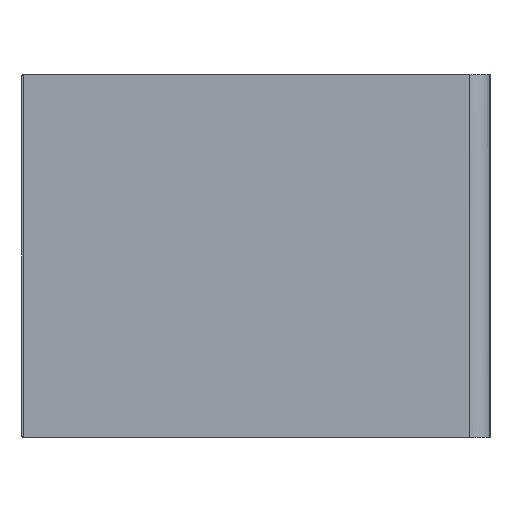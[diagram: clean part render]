
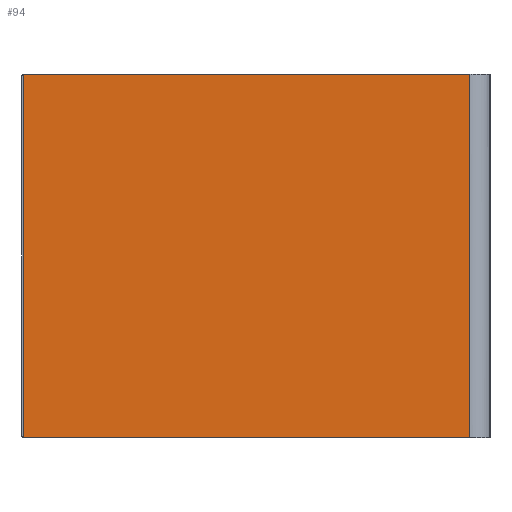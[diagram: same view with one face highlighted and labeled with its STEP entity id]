
A CAD part, left-side view. The second image highlights one B-rep face of the part: STEP entity #94.
In plain terms, the highlighted planar face has unit normal (-1, 0, 0).
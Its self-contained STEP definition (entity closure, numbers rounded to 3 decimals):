
#94=ADVANCED_FACE('',(#162),#1014,.T.);
#162=FACE_OUTER_BOUND('',#232,.T.);
#232=EDGE_LOOP('',(#542,#543,#544,#545));
#542=ORIENTED_EDGE('',*,*,#710,.F.);
#543=ORIENTED_EDGE('',*,*,#702,.F.);
#544=ORIENTED_EDGE('',*,*,#711,.T.);
#545=ORIENTED_EDGE('',*,*,#706,.F.);
#702=EDGE_CURVE('',#966,#968,#865,.T.);
#706=EDGE_CURVE('',#972,#973,#868,.T.);
#710=EDGE_CURVE('',#968,#972,#872,.T.);
#711=EDGE_CURVE('',#966,#973,#873,.T.);
#865=B_SPLINE_CURVE_WITH_KNOTS('',1,(#2454,#2455),.UNSPECIFIED.,.F.,.F.,
(2,2),(0.,70.),.UNSPECIFIED.);
#868=B_SPLINE_CURVE_WITH_KNOTS('',1,(#2463,#2464),.UNSPECIFIED.,.F.,.F.,
(2,2),(0.,70.),.UNSPECIFIED.);
#872=B_SPLINE_CURVE_WITH_KNOTS('',1,(#2471,#2472),.UNSPECIFIED.,.F.,.F.,
(2,2),(0.,86.),.UNSPECIFIED.);
#873=B_SPLINE_CURVE_WITH_KNOTS('',1,(#2473,#2474),.UNSPECIFIED.,.F.,.F.,
(2,2),(0.,86.),.UNSPECIFIED.);
#966=VERTEX_POINT('',#2323);
#968=VERTEX_POINT('',#2325);
#972=VERTEX_POINT('',#2329);
#973=VERTEX_POINT('',#2330);
#1014=PLANE('',#1100);
#1100=AXIS2_PLACEMENT_3D('',#2297,#1144,$);
#1144=DIRECTION('',(-1.,0.,0.));
#2297=CARTESIAN_POINT('',(-218.25,529.636,77.647));
#2323=CARTESIAN_POINT('',(-218.25,538.236,70.647));
#2325=CARTESIAN_POINT('',(-218.25,538.236,0.647));
#2329=CARTESIAN_POINT('',(-218.25,624.236,0.647));
#2330=CARTESIAN_POINT('',(-218.25,624.236,70.647));
#2454=CARTESIAN_POINT('',(-218.25,538.236,70.647));
#2455=CARTESIAN_POINT('',(-218.25,538.236,0.647));
#2463=CARTESIAN_POINT('',(-218.25,624.236,0.647));
#2464=CARTESIAN_POINT('',(-218.25,624.236,70.647));
#2471=CARTESIAN_POINT('',(-218.25,538.236,0.647));
#2472=CARTESIAN_POINT('',(-218.25,624.236,0.647));
#2473=CARTESIAN_POINT('',(-218.25,538.236,70.647));
#2474=CARTESIAN_POINT('',(-218.25,624.236,70.647));
